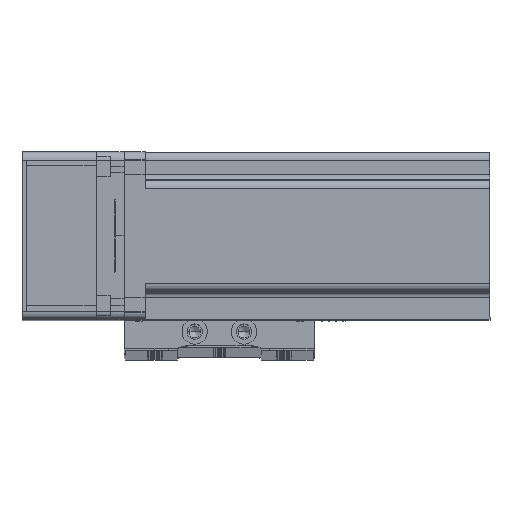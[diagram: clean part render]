
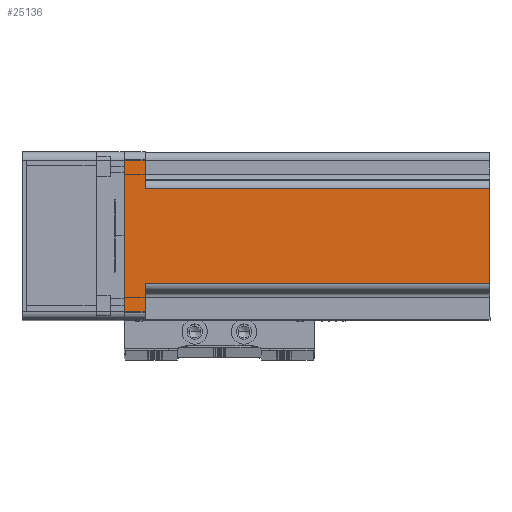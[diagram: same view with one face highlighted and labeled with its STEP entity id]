
A CAD part, top view. The second image highlights one B-rep face of the part: STEP entity #25136.
In plain terms, the highlighted planar face has unit normal (0, 0, 1) as drawn and (0, 1, 0) by its records, which use the part's own axes.
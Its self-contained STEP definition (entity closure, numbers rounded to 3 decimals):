
#143 = ORIENTED_EDGE ( 'NONE', *, *, #70710, .T. ) ;
#445 = CARTESIAN_POINT ( 'NONE',  ( 17., 30., 130.7 ) ) ;
#622 = EDGE_CURVE ( 'NONE', #68186, #27098, #65231, .T. ) ;
#2321 = EDGE_CURVE ( 'NONE', #4100, #68186, #2326, .T. ) ;
#2326 = LINE ( 'NONE', #14601, #29772 ) ;
#2544 = VECTOR ( 'NONE', #12411, 1000. ) ;
#2777 = PLANE ( 'NONE',  #18314 ) ;
#4100 = VERTEX_POINT ( 'NONE', #28747 ) ;
#4399 = LINE ( 'NONE', #31306, #18936 ) ;
#7608 = DIRECTION ( 'NONE',  ( 1., 0., 0. ) ) ;
#11332 = CARTESIAN_POINT ( 'NONE',  ( 17., 30., 7.5 ) ) ;
#12411 = DIRECTION ( 'NONE',  ( 0., 0., -1. ) ) ;
#14601 = CARTESIAN_POINT ( 'NONE',  ( -27., 30., 130.7 ) ) ;
#14695 = CARTESIAN_POINT ( 'NONE',  ( -17., 30., 130.7 ) ) ;
#15242 = VERTEX_POINT ( 'NONE', #52956 ) ;
#15370 = CARTESIAN_POINT ( 'NONE',  ( -27., 30., 7.5 ) ) ;
#16254 = VECTOR ( 'NONE', #52922, 1000. ) ;
#16536 = ORIENTED_EDGE ( 'NONE', *, *, #2321, .T. ) ;
#17692 = CARTESIAN_POINT ( 'NONE',  ( 27., 30., 130.7 ) ) ;
#18314 = AXIS2_PLACEMENT_3D ( 'NONE', #63078, #30343, #68594 ) ;
#18936 = VECTOR ( 'NONE', #42088, 1000. ) ;
#20159 = VERTEX_POINT ( 'NONE', #11332 ) ;
#21950 = DIRECTION ( 'NONE',  ( -1., 0., 0. ) ) ;
#25136 = ADVANCED_FACE ( 'NONE', ( #28230 ), #2777, .F. ) ;
#25312 = ORIENTED_EDGE ( 'NONE', *, *, #66780, .T. ) ;
#27002 = VECTOR ( 'NONE', #43575, 1000. ) ;
#27093 = CARTESIAN_POINT ( 'NONE',  ( 30., 30., 130.7 ) ) ;
#27098 = VERTEX_POINT ( 'NONE', #56649 ) ;
#28230 = FACE_OUTER_BOUND ( 'NONE', #61470, .T. ) ;
#28747 = CARTESIAN_POINT ( 'NONE',  ( -27., 30., 0. ) ) ;
#29675 = EDGE_CURVE ( 'NONE', #27098, #65344, #32522, .T. ) ;
#29772 = VECTOR ( 'NONE', #46869, 1000. ) ;
#30343 = DIRECTION ( 'NONE',  ( 0., -1., 0. ) ) ;
#31306 = CARTESIAN_POINT ( 'NONE',  ( 17., 30., 130.7 ) ) ;
#32522 = LINE ( 'NONE', #14695, #16254 ) ;
#32770 = VERTEX_POINT ( 'NONE', #445 ) ;
#33635 = CARTESIAN_POINT ( 'NONE',  ( -17., 30., 130.7 ) ) ;
#34092 = EDGE_CURVE ( 'NONE', #45106, #20159, #55145, .T. ) ;
#34373 = EDGE_CURVE ( 'NONE', #32770, #65344, #41571, .T. ) ;
#35288 = ORIENTED_EDGE ( 'NONE', *, *, #34373, .F. ) ;
#35735 = DIRECTION ( 'NONE',  ( -1., 0., 0. ) ) ;
#36120 = VECTOR ( 'NONE', #7608, 1000. ) ;
#36644 = ORIENTED_EDGE ( 'NONE', *, *, #29675, .T. ) ;
#37049 = CARTESIAN_POINT ( 'NONE',  ( 27., 30., 7.5 ) ) ;
#40633 = VECTOR ( 'NONE', #35735, 1000. ) ;
#41571 = LINE ( 'NONE', #27093, #27002 ) ;
#42088 = DIRECTION ( 'NONE',  ( 0., 0., -1. ) ) ;
#43575 = DIRECTION ( 'NONE',  ( -1., 0., 0. ) ) ;
#45106 = VERTEX_POINT ( 'NONE', #37049 ) ;
#46869 = DIRECTION ( 'NONE',  ( 0., 0., 1. ) ) ;
#52922 = DIRECTION ( 'NONE',  ( 0., 0., 1. ) ) ;
#52956 = CARTESIAN_POINT ( 'NONE',  ( 27., 30., 0. ) ) ;
#53516 = VECTOR ( 'NONE', #21950, 1000. ) ;
#55145 = LINE ( 'NONE', #68491, #40633 ) ;
#55485 = CARTESIAN_POINT ( 'NONE',  ( -20., 30., 7.5 ) ) ;
#56319 = ORIENTED_EDGE ( 'NONE', *, *, #34092, .F. ) ;
#56649 = CARTESIAN_POINT ( 'NONE',  ( -17., 30., 7.5 ) ) ;
#60651 = EDGE_CURVE ( 'NONE', #15242, #4100, #68123, .T. ) ;
#60771 = LINE ( 'NONE', #17692, #2544 ) ;
#61470 = EDGE_LOOP ( 'NONE', ( #69014, #36644, #35288, #143, #56319, #25312, #65709, #16536 ) ) ;
#63078 = CARTESIAN_POINT ( 'NONE',  ( 30., 30., 130.7 ) ) ;
#65231 = LINE ( 'NONE', #55485, #36120 ) ;
#65344 = VERTEX_POINT ( 'NONE', #33635 ) ;
#65709 = ORIENTED_EDGE ( 'NONE', *, *, #60651, .T. ) ;
#66780 = EDGE_CURVE ( 'NONE', #45106, #15242, #60771, .T. ) ;
#68123 = LINE ( 'NONE', #71051, #53516 ) ;
#68186 = VERTEX_POINT ( 'NONE', #15370 ) ;
#68491 = CARTESIAN_POINT ( 'NONE',  ( 20., 30., 7.5 ) ) ;
#68594 = DIRECTION ( 'NONE',  ( 1., 0., 0. ) ) ;
#69014 = ORIENTED_EDGE ( 'NONE', *, *, #622, .T. ) ;
#70710 = EDGE_CURVE ( 'NONE', #32770, #20159, #4399, .T. ) ;
#71051 = CARTESIAN_POINT ( 'NONE',  ( 30., 30., 0. ) ) ;
